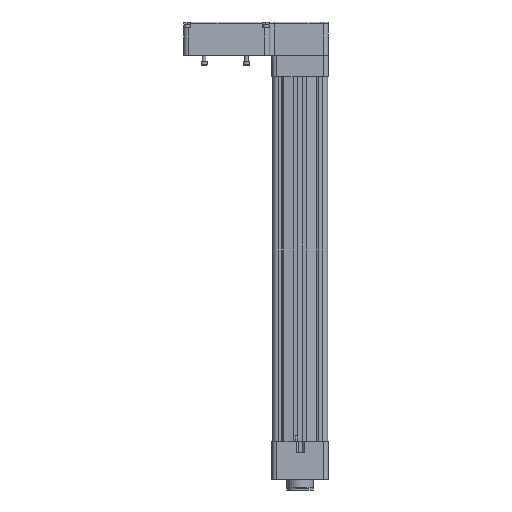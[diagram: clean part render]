
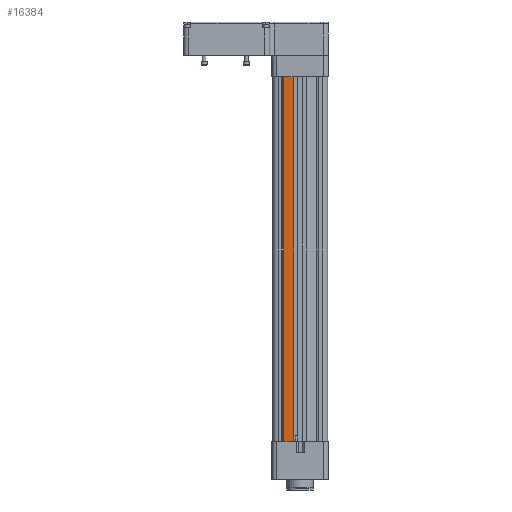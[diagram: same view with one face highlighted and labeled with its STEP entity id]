
A CAD part, left-side view. The second image highlights one B-rep face of the part: STEP entity #16384.
In plain terms, the highlighted planar face has unit normal (-0.995, 0.104, 0).
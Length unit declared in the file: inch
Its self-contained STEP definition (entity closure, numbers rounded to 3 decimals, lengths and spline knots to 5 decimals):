
#190 = CARTESIAN_POINT ( 'NONE',  ( -1.74245, 1.07892, -23.926 ) ) ;
#227 = ORIENTED_EDGE ( 'NONE', *, *, #7043, .F. ) ;
#230 = AXIS2_PLACEMENT_3D ( 'NONE', #190, #7974, #9649 ) ;
#591 = DIRECTION ( 'NONE',  ( 0., 0., 1. ) ) ;
#1300 = CARTESIAN_POINT ( 'NONE',  ( -1.8125, 0.41242, 0. ) ) ;
#1872 = LINE ( 'NONE', #9518, #24951 ) ;
#2525 = DIRECTION ( 'NONE',  ( -0.105, -0.995, 0. ) ) ;
#2709 = VERTEX_POINT ( 'NONE', #1300 ) ;
#2843 = ORIENTED_EDGE ( 'NONE', *, *, #24812, .T. ) ;
#4430 = LINE ( 'NONE', #12223, #11170 ) ;
#5807 = PLANE ( 'NONE',  #230 ) ;
#7043 = EDGE_CURVE ( 'NONE', #17552, #24371, #24545, .T. ) ;
#7605 = FACE_OUTER_BOUND ( 'NONE', #13756, .T. ) ;
#7974 = DIRECTION ( 'NONE',  ( -0.995, 0.105, 0. ) ) ;
#9518 = CARTESIAN_POINT ( 'NONE',  ( -1.74245, 1.07892, -23.926 ) ) ;
#9569 = ORIENTED_EDGE ( 'NONE', *, *, #9581, .F. ) ;
#9581 = EDGE_CURVE ( 'NONE', #22291, #2709, #4430, .T. ) ;
#9600 = CARTESIAN_POINT ( 'NONE',  ( -1.74245, 1.07892, -23.925 ) ) ;
#9649 = DIRECTION ( 'NONE',  ( -0.105, -0.995, 0. ) ) ;
#9658 = DIRECTION ( 'NONE',  ( 0., 0., 1. ) ) ;
#11170 = VECTOR ( 'NONE', #2525, 39.37008 ) ;
#11288 = ORIENTED_EDGE ( 'NONE', *, *, #22327, .F. ) ;
#12076 = CARTESIAN_POINT ( 'NONE',  ( -1.8125, 0.41242, -23.926 ) ) ;
#12223 = CARTESIAN_POINT ( 'NONE',  ( -1.74245, 1.07892, 0. ) ) ;
#13509 = VECTOR ( 'NONE', #591, 39.37008 ) ;
#13756 = EDGE_LOOP ( 'NONE', ( #227, #2843, #9569, #11288 ) ) ;
#14239 = VECTOR ( 'NONE', #24674, 39.37008 ) ;
#16384 = ADVANCED_FACE ( 'NONE', ( #7605 ), #5807, .T. ) ;
#17552 = VERTEX_POINT ( 'NONE', #19876 ) ;
#18078 = LINE ( 'NONE', #12076, #13509 ) ;
#19876 = CARTESIAN_POINT ( 'NONE',  ( -1.8125, 0.41242, -23.925 ) ) ;
#20455 = CARTESIAN_POINT ( 'NONE',  ( -1.74245, 1.07892, -23.925 ) ) ;
#22291 = VERTEX_POINT ( 'NONE', #22940 ) ;
#22327 = EDGE_CURVE ( 'NONE', #24371, #22291, #1872, .T. ) ;
#22940 = CARTESIAN_POINT ( 'NONE',  ( -1.74245, 1.07892, 0. ) ) ;
#24371 = VERTEX_POINT ( 'NONE', #9600 ) ;
#24545 = LINE ( 'NONE', #20455, #14239 ) ;
#24674 = DIRECTION ( 'NONE',  ( 0.105, 0.995, 0. ) ) ;
#24812 = EDGE_CURVE ( 'NONE', #17552, #2709, #18078, .T. ) ;
#24951 = VECTOR ( 'NONE', #9658, 39.37008 ) ;
